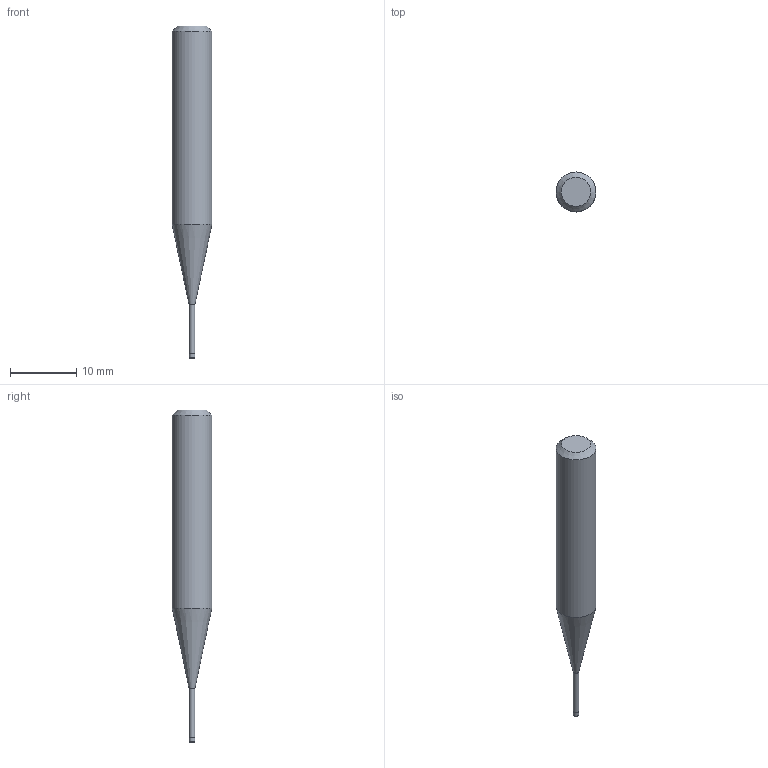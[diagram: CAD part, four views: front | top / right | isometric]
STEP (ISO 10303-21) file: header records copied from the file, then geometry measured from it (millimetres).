
FILE_DESCRIPTION((''),'2;1');
FILE_NAME('C:\Users\nsx150\AppData\Local\Temp\Mastercam 2021\17T8Q8S9EB\TEMP.step','2021-04-21T14:32:47',(''),(''),'STEP Write','Mastercam 2021 ... CNC Software, Inc.','');
FILE_SCHEMA(('AUTOMOTIVE_DESIGN'));
Length unit declared in the file: millimetre
Products named in the file (1): None
Bounding box: 6 x 6 x 50 mm (x, y, z)
Volume: 976.7 mm3; surface area: 738.4 mm2
Topology: 2 solids, 2 shells, 10 faces, 14 edges, 8 vertices
Faces by surface type: plane 4, cylinder 3, cone 2, torus 1
Full cylindrical faces by diameter (mm): 0.85 x1, 0.9 x1, 6 x1
Entity records: 232 total; most frequent: DIRECTION 40, CARTESIAN_POINT 28, AXIS2_PLACEMENT_3D 20, ORIENTED_EDGE 16, EDGE_LOOP 16, STYLED_ITEM 13, ADVANCED_FACE 10, FACE_BOUND 10
